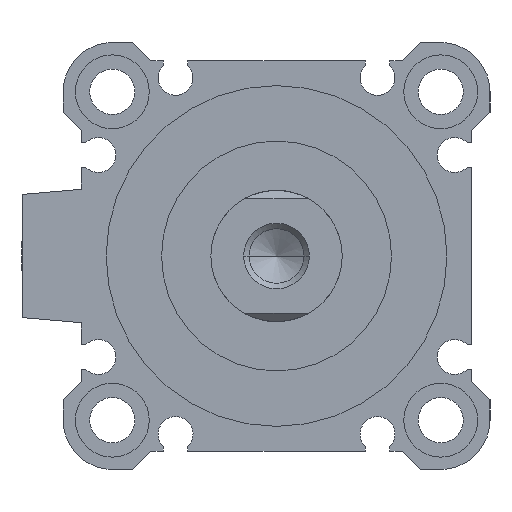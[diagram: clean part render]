
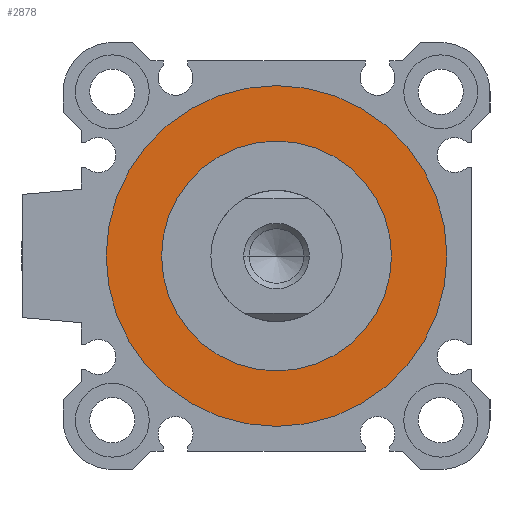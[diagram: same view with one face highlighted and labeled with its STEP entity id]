
A CAD part, left-side view. The second image highlights one B-rep face of the part: STEP entity #2878.
In plain terms, the highlighted planar face has unit normal (-1, 0, 0).
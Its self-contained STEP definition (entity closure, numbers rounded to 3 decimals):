
#67 = EDGE_LOOP ( 'NONE', ( #2548, #2051 ) ) ;
#74 = AXIS2_PLACEMENT_3D ( 'NONE', #2076, #604, #3629 ) ;
#182 = CARTESIAN_POINT ( 'NONE',  ( 3.3, 0., -20.75 ) ) ;
#372 = DIRECTION ( 'NONE',  ( 1., 0., 0. ) ) ;
#379 = EDGE_LOOP ( 'NONE', ( #697, #4477 ) ) ;
#420 = FACE_OUTER_BOUND ( 'NONE', #379, .T. ) ;
#604 = DIRECTION ( 'NONE',  ( 1., 0., 0. ) ) ;
#697 = ORIENTED_EDGE ( 'NONE', *, *, #1614, .F. ) ;
#791 = EDGE_CURVE ( 'NONE', #1093, #4694, #3045, .T. ) ;
#795 = DIRECTION ( 'NONE',  ( 1., 0., 0. ) ) ;
#824 = DIRECTION ( 'NONE',  ( 0., 0., -1. ) ) ;
#835 = FACE_BOUND ( 'NONE', #67, .T. ) ;
#853 = PLANE ( 'NONE',  #2889 ) ;
#1021 = AXIS2_PLACEMENT_3D ( 'NONE', #2708, #795, #1966 ) ;
#1093 = VERTEX_POINT ( 'NONE', #3415 ) ;
#1383 = CARTESIAN_POINT ( 'NONE',  ( 3.3, 0., 0. ) ) ;
#1597 = AXIS2_PLACEMENT_3D ( 'NONE', #1383, #4484, #4080 ) ;
#1614 = EDGE_CURVE ( 'NONE', #3075, #2383, #4222, .T. ) ;
#1927 = AXIS2_PLACEMENT_3D ( 'NONE', #3110, #4661, #824 ) ;
#1934 = EDGE_CURVE ( 'NONE', #2383, #3075, #3474, .T. ) ;
#1966 = DIRECTION ( 'NONE',  ( 0., 0., -1. ) ) ;
#1976 = CARTESIAN_POINT ( 'NONE',  ( 3.3, 0., 0. ) ) ;
#2051 = ORIENTED_EDGE ( 'NONE', *, *, #4059, .T. ) ;
#2076 = CARTESIAN_POINT ( 'NONE',  ( 3.3, 0., 0. ) ) ;
#2383 = VERTEX_POINT ( 'NONE', #182 ) ;
#2548 = ORIENTED_EDGE ( 'NONE', *, *, #791, .T. ) ;
#2708 = CARTESIAN_POINT ( 'NONE',  ( 3.3, 0., 0. ) ) ;
#2878 = ADVANCED_FACE ( 'NONE', ( #420, #835 ), #853, .F. ) ;
#2889 = AXIS2_PLACEMENT_3D ( 'NONE', #1976, #372, #3482 ) ;
#3045 = CIRCLE ( 'NONE', #1021, 14. ) ;
#3075 = VERTEX_POINT ( 'NONE', #4266 ) ;
#3110 = CARTESIAN_POINT ( 'NONE',  ( 3.3, 0., 0. ) ) ;
#3415 = CARTESIAN_POINT ( 'NONE',  ( 3.3, 0., 14. ) ) ;
#3474 = CIRCLE ( 'NONE', #1927, 20.75 ) ;
#3482 = DIRECTION ( 'NONE',  ( 0., 1., 0. ) ) ;
#3629 = DIRECTION ( 'NONE',  ( 0., 0., -1. ) ) ;
#3797 = CIRCLE ( 'NONE', #1597, 14. ) ;
#4059 = EDGE_CURVE ( 'NONE', #4694, #1093, #3797, .T. ) ;
#4080 = DIRECTION ( 'NONE',  ( 0., 0., -1. ) ) ;
#4222 = CIRCLE ( 'NONE', #74, 20.75 ) ;
#4246 = CARTESIAN_POINT ( 'NONE',  ( 3.3, 0., -14. ) ) ;
#4266 = CARTESIAN_POINT ( 'NONE',  ( 3.3, 0., 20.75 ) ) ;
#4477 = ORIENTED_EDGE ( 'NONE', *, *, #1934, .F. ) ;
#4484 = DIRECTION ( 'NONE',  ( 1., 0., 0. ) ) ;
#4661 = DIRECTION ( 'NONE',  ( 1., 0., 0. ) ) ;
#4694 = VERTEX_POINT ( 'NONE', #4246 ) ;
